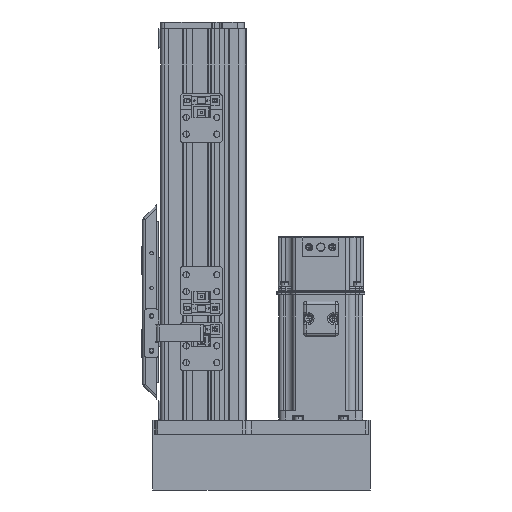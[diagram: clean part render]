
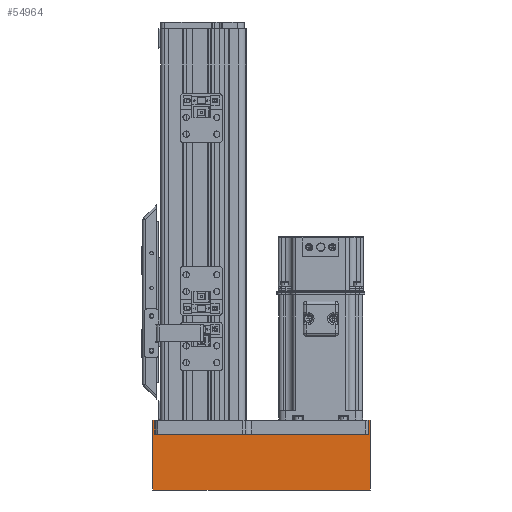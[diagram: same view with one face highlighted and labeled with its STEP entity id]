
A CAD part, left-side view. The second image highlights one B-rep face of the part: STEP entity #54964.
In plain terms, the highlighted planar face has unit normal (-1, 0, 0).
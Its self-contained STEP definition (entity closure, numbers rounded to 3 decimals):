
#551 = CARTESIAN_POINT ( 'NONE',  ( -35., 40., -80.8 ) ) ;
#562 = LINE ( 'NONE', #44802, #37633 ) ;
#882 = LINE ( 'NONE', #64426, #18255 ) ;
#986 = LINE ( 'NONE', #55772, #11737 ) ;
#1428 = DIRECTION ( 'NONE',  ( 0., -1., 0. ) ) ;
#5235 = CARTESIAN_POINT ( 'NONE',  ( -35., 0., 0. ) ) ;
#5907 = DIRECTION ( 'NONE',  ( 0., 0., 1. ) ) ;
#8896 = CARTESIAN_POINT ( 'NONE',  ( -35., 50., -90. ) ) ;
#9677 = VECTOR ( 'NONE', #49235, 1000. ) ;
#9967 = EDGE_CURVE ( 'NONE', #44178, #47049, #29334, .T. ) ;
#10414 = ORIENTED_EDGE ( 'NONE', *, *, #9967, .F. ) ;
#11484 = VERTEX_POINT ( 'NONE', #66643 ) ;
#11737 = VECTOR ( 'NONE', #34522, 1000. ) ;
#12194 = CARTESIAN_POINT ( 'NONE',  ( -35., 40., -82. ) ) ;
#13512 = VECTOR ( 'NONE', #40831, 1000. ) ;
#14123 = CARTESIAN_POINT ( 'NONE',  ( -35., 50., 72.8 ) ) ;
#15981 = VERTEX_POINT ( 'NONE', #62841 ) ;
#16214 = VECTOR ( 'NONE', #1428, 1000. ) ;
#17119 = DIRECTION ( 'NONE',  ( 0., 1., 0. ) ) ;
#17478 = AXIS2_PLACEMENT_3D ( 'NONE', #30013, #61585, #45938 ) ;
#17696 = CARTESIAN_POINT ( 'NONE',  ( -35., 0., 74. ) ) ;
#18255 = VECTOR ( 'NONE', #65113, 1000. ) ;
#21244 = VERTEX_POINT ( 'NONE', #17696 ) ;
#22116 = EDGE_CURVE ( 'NONE', #15981, #48284, #882, .T. ) ;
#23913 = ORIENTED_EDGE ( 'NONE', *, *, #45960, .T. ) ;
#25329 = ORIENTED_EDGE ( 'NONE', *, *, #59507, .F. ) ;
#25562 = LINE ( 'NONE', #31793, #34566 ) ;
#29334 = LINE ( 'NONE', #59929, #16214 ) ;
#30013 = CARTESIAN_POINT ( 'NONE',  ( -35., 50., -82. ) ) ;
#30234 = PLANE ( 'NONE',  #17478 ) ;
#31793 = CARTESIAN_POINT ( 'NONE',  ( -35., 50., 74. ) ) ;
#31882 = LINE ( 'NONE', #12194, #9677 ) ;
#33193 = ORIENTED_EDGE ( 'NONE', *, *, #64177, .T. ) ;
#34522 = DIRECTION ( 'NONE',  ( 0., 1., 0. ) ) ;
#34566 = VECTOR ( 'NONE', #17119, 1000. ) ;
#35297 = ORIENTED_EDGE ( 'NONE', *, *, #40305, .F. ) ;
#37633 = VECTOR ( 'NONE', #55180, 1000. ) ;
#40305 = EDGE_CURVE ( 'NONE', #53857, #60349, #986, .T. ) ;
#40831 = DIRECTION ( 'NONE',  ( 0., 0., 1. ) ) ;
#41483 = LINE ( 'NONE', #8896, #13512 ) ;
#44178 = VERTEX_POINT ( 'NONE', #54791 ) ;
#44802 = CARTESIAN_POINT ( 'NONE',  ( -35., 50., 0. ) ) ;
#45938 = DIRECTION ( 'NONE',  ( 0., 0., -1. ) ) ;
#45960 = EDGE_CURVE ( 'NONE', #53857, #21244, #63071, .T. ) ;
#47049 = VERTEX_POINT ( 'NONE', #551 ) ;
#48046 = ORIENTED_EDGE ( 'NONE', *, *, #22116, .F. ) ;
#48284 = VERTEX_POINT ( 'NONE', #14123 ) ;
#49187 = EDGE_CURVE ( 'NONE', #47049, #15981, #31882, .T. ) ;
#49235 = DIRECTION ( 'NONE',  ( 0., 0., 1. ) ) ;
#52508 = EDGE_CURVE ( 'NONE', #48284, #11484, #41483, .T. ) ;
#53857 = VERTEX_POINT ( 'NONE', #64848 ) ;
#54791 = CARTESIAN_POINT ( 'NONE',  ( -35., 50., -80.8 ) ) ;
#54964 = ADVANCED_FACE ( 'NONE', ( #58500 ), #30234, .F. ) ;
#55180 = DIRECTION ( 'NONE',  ( 0., 0., 1. ) ) ;
#55772 = CARTESIAN_POINT ( 'NONE',  ( -35., 50., -82. ) ) ;
#56409 = EDGE_LOOP ( 'NONE', ( #10414, #25329, #35297, #23913, #33193, #67004, #48046, #64437 ) ) ;
#57351 = VECTOR ( 'NONE', #5907, 1000. ) ;
#57598 = CARTESIAN_POINT ( 'NONE',  ( -35., 50., -82. ) ) ;
#58500 = FACE_OUTER_BOUND ( 'NONE', #56409, .T. ) ;
#59507 = EDGE_CURVE ( 'NONE', #60349, #44178, #562, .T. ) ;
#59929 = CARTESIAN_POINT ( 'NONE',  ( -35., 50., -80.8 ) ) ;
#60349 = VERTEX_POINT ( 'NONE', #57598 ) ;
#61585 = DIRECTION ( 'NONE',  ( 1., 0., 0. ) ) ;
#62841 = CARTESIAN_POINT ( 'NONE',  ( -35., 40., 72.8 ) ) ;
#63071 = LINE ( 'NONE', #5235, #57351 ) ;
#64177 = EDGE_CURVE ( 'NONE', #21244, #11484, #25562, .T. ) ;
#64426 = CARTESIAN_POINT ( 'NONE',  ( -35., 50., 72.8 ) ) ;
#64437 = ORIENTED_EDGE ( 'NONE', *, *, #49187, .F. ) ;
#64848 = CARTESIAN_POINT ( 'NONE',  ( -35., 0., -82. ) ) ;
#65113 = DIRECTION ( 'NONE',  ( 0., 1., 0. ) ) ;
#66643 = CARTESIAN_POINT ( 'NONE',  ( -35., 50., 74. ) ) ;
#67004 = ORIENTED_EDGE ( 'NONE', *, *, #52508, .F. ) ;
